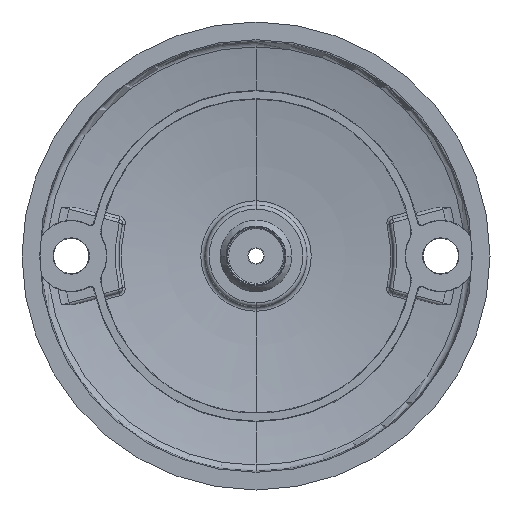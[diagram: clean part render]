
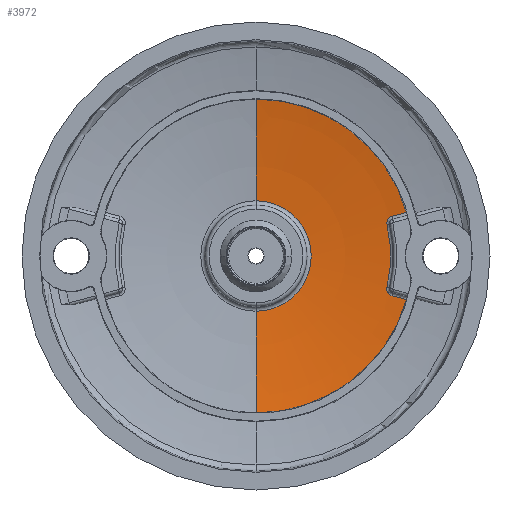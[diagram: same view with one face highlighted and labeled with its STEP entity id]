
A CAD part, front view. The second image highlights one B-rep face of the part: STEP entity #3972.
In plain terms, the highlighted toroidal (fillet/blend) face has major radius 6.085 mm and minor radius 277.5 mm.
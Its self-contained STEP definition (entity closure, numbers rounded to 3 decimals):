
#164 = VERTEX_POINT ( 'NONE', #2755 ) ;
#175 = VERTEX_POINT ( 'NONE', #2809 ) ;
#207 = ORIENTED_EDGE ( 'NONE', *, *, #2486, .F. ) ;
#264 = EDGE_LOOP ( 'NONE', ( #207, #4011, #4014, #4017, #4018, #4055, #4059, #4061, #4077, #4074 ) ) ;
#358 = CARTESIAN_POINT ( 'NONE',  ( 33.586, 12.988, 9.39 ) ) ;
#362 = CARTESIAN_POINT ( 'NONE',  ( 33.812, 12.945, 9.656 ) ) ;
#401 = CARTESIAN_POINT ( 'NONE',  ( 33.313, 13.081, 7.939 ) ) ;
#416 = CARTESIAN_POINT ( 'NONE',  ( 34.391, 12.845, 10.035 ) ) ;
#433 = CARTESIAN_POINT ( 'NONE',  ( 38.3, 12.195, 11.093 ) ) ;
#452 = CARTESIAN_POINT ( 'NONE',  ( 33.415, 13.025, 9.087 ) ) ;
#455 = CARTESIAN_POINT ( 'NONE',  ( 34.612, 12.809, 10.105 ) ) ;
#477 = CARTESIAN_POINT ( 'NONE',  ( 35.121, 12.728, 10.242 ) ) ;
#481 = CARTESIAN_POINT ( 'NONE',  ( 37.58, 12.321, 10.901 ) ) ;
#506 = CARTESIAN_POINT ( 'NONE',  ( 35.63, 12.646, 10.378 ) ) ;
#518 = CARTESIAN_POINT ( 'NONE',  ( 36.86, 12.443, 10.708 ) ) ;
#581 = CARTESIAN_POINT ( 'NONE',  ( 33.465, 13.014, 9.191 ) ) ;
#585 = CARTESIAN_POINT ( 'NONE',  ( 34.184, 12.879, 9.934 ) ) ;
#597 = CARTESIAN_POINT ( 'NONE',  ( 33.25, 13.074, 8.408 ) ) ;
#612 = CARTESIAN_POINT ( 'NONE',  ( 33.305, 13.053, 8.753 ) ) ;
#637 = CARTESIAN_POINT ( 'NONE',  ( 34.084, 12.897, 9.873 ) ) ;
#655 = CARTESIAN_POINT ( 'NONE',  ( 36.139, 12.562, 10.514 ) ) ;
#691 = CARTESIAN_POINT ( 'NONE',  ( 33.335, 13.045, 8.868 ) ) ;
#700 = CARTESIAN_POINT ( 'NONE',  ( 33.657, 12.974, 9.485 ) ) ;
#704 = CARTESIAN_POINT ( 'NONE',  ( 33.258, 13.081, 8.169 ) ) ;
#709 = CARTESIAN_POINT ( 'NONE',  ( 33.898, 12.929, 9.734 ) ) ;
#730 = CARTESIAN_POINT ( 'NONE',  ( 34.612, 12.809, 10.105 ) ) ;
#764 = CARTESIAN_POINT ( 'NONE',  ( 34.499, 12.827, 10.075 ) ) ;
#810 = AXIS2_PLACEMENT_3D ( 'NONE', #5478, #5479, #5480 ) ;
#815 = AXIS2_PLACEMENT_3D ( 'NONE', #5536, #5537, #5538 ) ;
#820 = AXIS2_PLACEMENT_3D ( 'NONE', #1760, #1761, #1762 ) ;
#975 = AXIS2_PLACEMENT_3D ( 'NONE', #1203, #1202, #1205 ) ;
#1016 = AXIS2_PLACEMENT_3D ( 'NONE', #5352, #5351, #5350 ) ;
#1106 = VERTEX_POINT ( 'NONE', #5285 ) ;
#1202 = DIRECTION ( 'NONE',  ( 0., -1., 0. ) ) ;
#1203 = CARTESIAN_POINT ( 'NONE',  ( 0., -261.472, 0. ) ) ;
#1205 = DIRECTION ( 'NONE',  ( 0., 0., -1. ) ) ;
#1377 = CARTESIAN_POINT ( 'NONE',  ( 38.3, 12.195, -11.093 ) ) ;
#1378 = CARTESIAN_POINT ( 'NONE',  ( 37.792, 12.284, -10.957 ) ) ;
#1382 = CARTESIAN_POINT ( 'NONE',  ( 37.284, 12.371, -10.821 ) ) ;
#1383 = CARTESIAN_POINT ( 'NONE',  ( 36.775, 12.456, -10.685 ) ) ;
#1384 = CARTESIAN_POINT ( 'NONE',  ( 36.055, 12.577, -10.492 ) ) ;
#1385 = CARTESIAN_POINT ( 'NONE',  ( 35.334, 12.695, -10.299 ) ) ;
#1386 = CARTESIAN_POINT ( 'NONE',  ( 34.612, 12.809, -10.105 ) ) ;
#1389 = CARTESIAN_POINT ( 'NONE',  ( 0., 12.195, 0. ) ) ;
#1390 = DIRECTION ( 'NONE',  ( 0., 1., 0. ) ) ;
#1391 = DIRECTION ( 'NONE',  ( 0., 0., -1. ) ) ;
#1651 = VERTEX_POINT ( 'NONE', #5100 ) ;
#1760 = CARTESIAN_POINT ( 'NONE',  ( 0., -261.472, 6.085 ) ) ;
#1761 = DIRECTION ( 'NONE',  ( -1., 0., 0. ) ) ;
#1762 = DIRECTION ( 'NONE',  ( 0., 0., 1. ) ) ;
#1858 = CARTESIAN_POINT ( 'NONE',  ( 0., 15.296, 0. ) ) ;
#1859 = DIRECTION ( 'NONE',  ( 0., 1., 0. ) ) ;
#1860 = DIRECTION ( 'NONE',  ( 0., 0., -1. ) ) ;
#2334 = EDGE_CURVE ( 'NONE', #164, #3366, #3084, .T. ) ;
#2363 = EDGE_CURVE ( 'NONE', #3312, #164, #3131, .T. ) ;
#2486 = EDGE_CURVE ( 'NONE', #3030, #3214, #4747, .T. ) ;
#2558 = EDGE_CURVE ( 'NONE', #3647, #3312, #4822, .T. ) ;
#2562 = EDGE_CURVE ( 'NONE', #3309, #1106, #4824, .T. ) ;
#2565 = EDGE_CURVE ( 'NONE', #175, #3647, #3147, .T. ) ;
#2604 = TOROIDAL_SURFACE ( 'NONE', #975, -6.085, 277.5 ) ;
#2607 = FACE_OUTER_BOUND ( 'NONE', #264, .T. ) ;
#2682 = CIRCLE ( 'NONE', #820, 277.5 ) ;
#2694 = CIRCLE ( 'NONE', #4165, 14.054 ) ;
#2702 = CIRCLE ( 'NONE', #4150, 39.874 ) ;
#2755 = CARTESIAN_POINT ( 'NONE',  ( 34.612, 12.809, 10.105 ) ) ;
#2809 = CARTESIAN_POINT ( 'NONE',  ( 34.612, 12.809, -10.105 ) ) ;
#3030 = VERTEX_POINT ( 'NONE', #5565 ) ;
#3084 = B_SPLINE_CURVE_WITH_KNOTS ( 'NONE', 3,
 ( #730, #477, #506, #655, #518, #481, #433 ),
 .UNSPECIFIED., .F., .F.,
 ( 4, 3, 4 ),
 ( 0., 0.002, 0.004 ),
 .UNSPECIFIED. ) ;
#3131 = B_SPLINE_CURVE_WITH_KNOTS ( 'NONE', 3,
 ( #401, #704, #597, #612, #691, #452, #581, #358, #700, #362, #709, #637, #585, #416, #764, #455 ),
 .UNSPECIFIED., .F., .F.,
 ( 4, 2, 2, 2, 2, 2, 2, 4 ),
 ( 0., 0.001, 0.001, 0.001, 0.002, 0.002, 0.002, 0.003 ),
 .UNSPECIFIED. ) ;
#3147 = B_SPLINE_CURVE_WITH_KNOTS ( 'NONE', 3,
 ( #5544, #5543, #5548, #5549, #5550, #5551, #5552, #5553, #5554, #5555, #5556, #5557, #5558, #5559 ),
 .UNSPECIFIED., .F., .F.,
 ( 4, 2, 2, 2, 2, 2, 4 ),
 ( 0., 0.001, 0.001, 0.002, 0.002, 0.002, 0.003 ),
 .UNSPECIFIED. ) ;
#3172 = B_SPLINE_CURVE_WITH_KNOTS ( 'NONE', 3,
 ( #1377, #1378, #1382, #1383, #1384, #1385, #1386 ),
 .UNSPECIFIED., .F., .F.,
 ( 4, 3, 4 ),
 ( 0., 0.002, 0.004 ),
 .UNSPECIFIED. ) ;
#3214 = VERTEX_POINT ( 'NONE', #5587 ) ;
#3309 = VERTEX_POINT ( 'NONE', #5610 ) ;
#3312 = VERTEX_POINT ( 'NONE', #5613 ) ;
#3366 = VERTEX_POINT ( 'NONE', #5667 ) ;
#3647 = VERTEX_POINT ( 'NONE', #5684 ) ;
#3972 = ADVANCED_FACE ( 'NONE', ( #2607 ), #2604, .F. ) ;
#4011 = ORIENTED_EDGE ( 'NONE', *, *, #4866, .T. ) ;
#4014 = ORIENTED_EDGE ( 'NONE', *, *, #4845, .T. ) ;
#4017 = ORIENTED_EDGE ( 'NONE', *, *, #2562, .F. ) ;
#4018 = ORIENTED_EDGE ( 'NONE', *, *, #4879, .T. ) ;
#4055 = ORIENTED_EDGE ( 'NONE', *, *, #2565, .T. ) ;
#4059 = ORIENTED_EDGE ( 'NONE', *, *, #2558, .T. ) ;
#4061 = ORIENTED_EDGE ( 'NONE', *, *, #2363, .T. ) ;
#4074 = ORIENTED_EDGE ( 'NONE', *, *, #4880, .F. ) ;
#4077 = ORIENTED_EDGE ( 'NONE', *, *, #2334, .T. ) ;
#4150 = AXIS2_PLACEMENT_3D ( 'NONE', #1389, #1390, #1391 ) ;
#4165 = AXIS2_PLACEMENT_3D ( 'NONE', #1858, #1859, #1860 ) ;
#4747 = CIRCLE ( 'NONE', #1016, 277.5 ) ;
#4822 = CIRCLE ( 'NONE', #810, 34.246 ) ;
#4824 = CIRCLE ( 'NONE', #815, 39.874 ) ;
#4845 = EDGE_CURVE ( 'NONE', #1651, #1106, #2682, .T. ) ;
#4866 = EDGE_CURVE ( 'NONE', #3030, #1651, #2694, .T. ) ;
#4879 = EDGE_CURVE ( 'NONE', #3309, #175, #3172, .T. ) ;
#4880 = EDGE_CURVE ( 'NONE', #3214, #3366, #2702, .T. ) ;
#5100 = CARTESIAN_POINT ( 'NONE',  ( 0., 15.296, -14.054 ) ) ;
#5285 = CARTESIAN_POINT ( 'NONE',  ( 0., 12.195, -39.874 ) ) ;
#5350 = DIRECTION ( 'NONE',  ( 0., 0., -1. ) ) ;
#5351 = DIRECTION ( 'NONE',  ( 1., 0., 0. ) ) ;
#5352 = CARTESIAN_POINT ( 'NONE',  ( 0., -261.472, -6.085 ) ) ;
#5478 = CARTESIAN_POINT ( 'NONE',  ( 0., 13.081, 0. ) ) ;
#5479 = DIRECTION ( 'NONE',  ( 0., -1., 0. ) ) ;
#5480 = DIRECTION ( 'NONE',  ( 0., 0., -1. ) ) ;
#5536 = CARTESIAN_POINT ( 'NONE',  ( 0., 12.195, 0. ) ) ;
#5537 = DIRECTION ( 'NONE',  ( 0., 1., 0. ) ) ;
#5538 = DIRECTION ( 'NONE',  ( 0., 0., -1. ) ) ;
#5543 = CARTESIAN_POINT ( 'NONE',  ( 34.387, 12.845, -10.045 ) ) ;
#5544 = CARTESIAN_POINT ( 'NONE',  ( 34.612, 12.809, -10.105 ) ) ;
#5548 = CARTESIAN_POINT ( 'NONE',  ( 34.174, 12.881, -9.941 ) ) ;
#5549 = CARTESIAN_POINT ( 'NONE',  ( 33.805, 12.946, -9.664 ) ) ;
#5550 = CARTESIAN_POINT ( 'NONE',  ( 33.645, 12.976, -9.488 ) ) ;
#5551 = CARTESIAN_POINT ( 'NONE',  ( 33.465, 13.014, -9.19 ) ) ;
#5552 = CARTESIAN_POINT ( 'NONE',  ( 33.414, 13.025, -9.084 ) ) ;
#5553 = CARTESIAN_POINT ( 'NONE',  ( 33.334, 13.045, -8.865 ) ) ;
#5554 = CARTESIAN_POINT ( 'NONE',  ( 33.305, 13.054, -8.752 ) ) ;
#5555 = CARTESIAN_POINT ( 'NONE',  ( 33.268, 13.067, -8.521 ) ) ;
#5556 = CARTESIAN_POINT ( 'NONE',  ( 33.261, 13.073, -8.403 ) ) ;
#5557 = CARTESIAN_POINT ( 'NONE',  ( 33.27, 13.08, -8.17 ) ) ;
#5558 = CARTESIAN_POINT ( 'NONE',  ( 33.286, 13.081, -8.054 ) ) ;
#5559 = CARTESIAN_POINT ( 'NONE',  ( 33.313, 13.081, -7.939 ) ) ;
#5565 = CARTESIAN_POINT ( 'NONE',  ( 0., 15.296, 14.054 ) ) ;
#5587 = CARTESIAN_POINT ( 'NONE',  ( 0., 12.195, 39.874 ) ) ;
#5610 = CARTESIAN_POINT ( 'NONE',  ( 38.3, 12.195, -11.093 ) ) ;
#5613 = CARTESIAN_POINT ( 'NONE',  ( 33.313, 13.081, 7.939 ) ) ;
#5667 = CARTESIAN_POINT ( 'NONE',  ( 38.3, 12.195, 11.093 ) ) ;
#5684 = CARTESIAN_POINT ( 'NONE',  ( 33.313, 13.081, -7.939 ) ) ;
